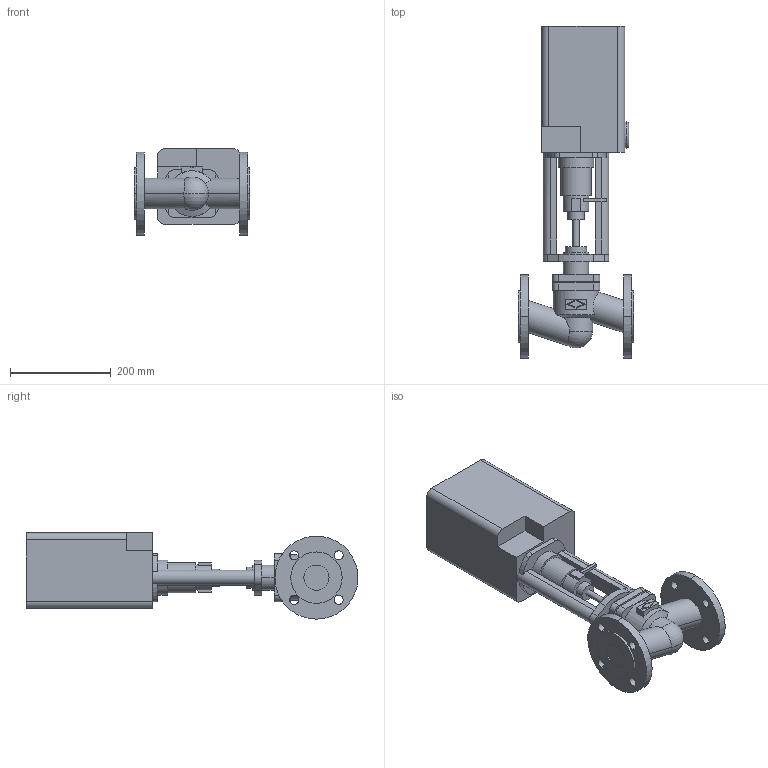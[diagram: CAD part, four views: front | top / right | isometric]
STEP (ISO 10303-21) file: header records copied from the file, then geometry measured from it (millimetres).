
FILE_DESCRIPTION(('OneSpaceDesigner STEP Export'),'2;1');
FILE_NAME('c000001170.stp','2005-02-16T12:03:58',(''),(''),'OneSpace Designer STEP processor (Jan. 2003) for AP203(Solid Model)','OneSpace Designer 12.01D 09-Jul-2004 (C) CoCreate Software GmbH','');
FILE_SCHEMA(('CONFIG_CONTROL_DESIGN'));
Length unit declared in the file: millimetre
Products named in the file (2): 1; 2
Bounding box: 230 x 659.5 x 171.5 mm (x, y, z)
Volume: 8795690.4 mm3; surface area: 474836.9 mm2
Topology: 2 solids, 2 shells, 174 faces, 442 edges, 293 vertices
Faces by surface type: plane 86, cylinder 82, cone 2, sphere 2, torus 2
Entity records: 5297 total; most frequent: CARTESIAN_POINT 1095, ORIENTED_EDGE 880, DIRECTION 778, EDGE_CURVE 440, VERTEX_POINT 293, AXIS2_PLACEMENT_3D 269, VECTOR 240, LINE 240
